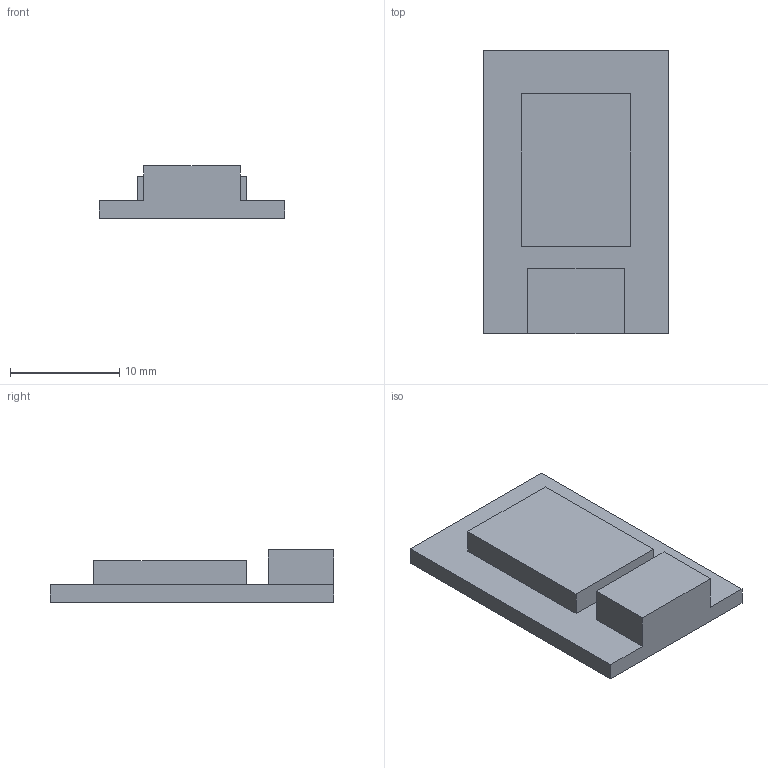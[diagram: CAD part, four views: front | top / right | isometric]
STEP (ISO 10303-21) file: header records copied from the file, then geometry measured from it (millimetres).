
FILE_DESCRIPTION(('Open CASCADE Model'),'2;1');
FILE_NAME('Open CASCADE Shape Model','2026-10-01T12:35:22',('Author'),( 'Open CASCADE'),'Open CASCADE STEP processor 7.8','Open CASCADE 7.8' ,'Unknown');
FILE_SCHEMA(('AUTOMOTIVE_DESIGN { 1 0 10303 214 1 1 1 1 }'));
Length unit declared in the file: millimetre
Products named in the file (2): E07_TP4056_MD0744; E07_TP4056_MD0744_solid
Assembly tree (1 placements, depth 2):
  E07_TP4056_MD0744
    E07_TP4056_MD0744_solid
Bounding box: 17 x 26 x 4.8 mm (x, y, z)
Volume: 1184.2 mm3; surface area: 1221.9 mm2
Topology: 1 solids, 1 shells, 15 faces, 36 edges, 24 vertices
Faces by surface type: plane 15
Entity records: 935 total; most frequent: CARTESIAN_POINT 149, DIRECTION 142, LINE 108, VECTOR 108, ORIENTED_EDGE 72, PCURVE 72, DEFINITIONAL_REPRESENTATION 72, EDGE_CURVE 36
